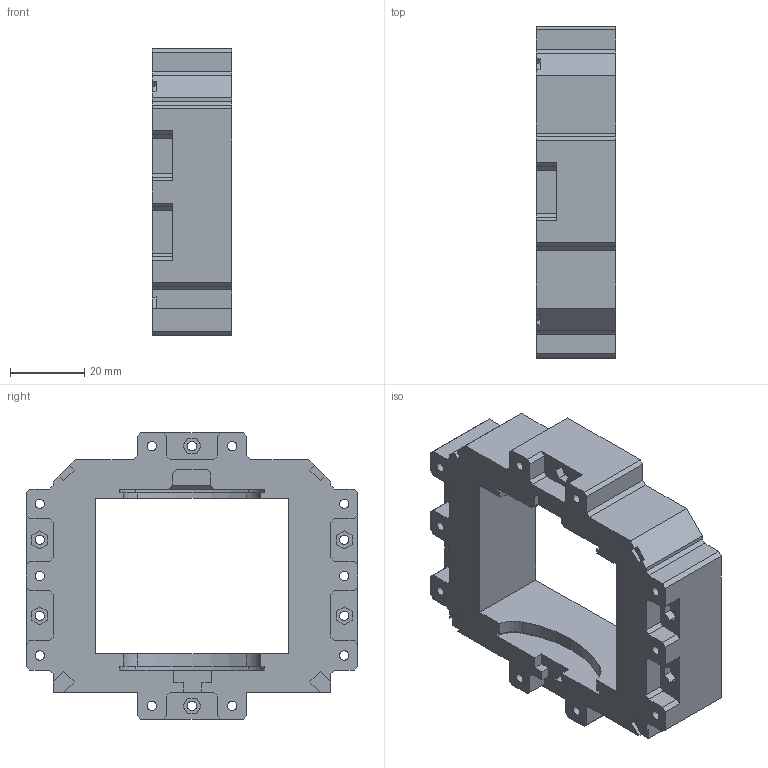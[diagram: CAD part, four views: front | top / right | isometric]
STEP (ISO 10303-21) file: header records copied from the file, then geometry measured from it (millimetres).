
FILE_DESCRIPTION(/* description */ (''),/* implementation_level */ '2;1');
FILE_NAME(/* name */ 'upper_mold.stp',/* time_stamp */ '2025-08-17T18:01:38+02:00',/* author */ ('MehdiBelhadj'),/* organization */ (''),/* preprocessor_version */ 'ST-DEVELOPER v20.1',/* originating_system */ 'Autodesk Inventor 2026',/* authorisation */ '');
FILE_SCHEMA (('AUTOMOTIVE_DESIGN { 1 0 10303 214 3 1 1 }'));
Length unit declared in the file: millimetre
Products named in the file (1): Mold_Top
Bounding box: 21.41 x 89.6 x 77.5 mm (x, y, z)
Volume: 69877.5 mm3; surface area: 22340.6 mm2
Topology: 1 solids, 1 shells, 324 faces, 905 edges, 603 vertices
Faces by surface type: plane 263, bspline 31, cylinder 30
Full cylindrical faces by diameter (mm): 2.5 x16
Entity records: 10942 total; most frequent: CARTESIAN_POINT 2305, ORIENTED_EDGE 1810, DIRECTION 1493, EDGE_CURVE 905, LINE 781, VECTOR 781, VERTEX_POINT 603, EDGE_LOOP 378
